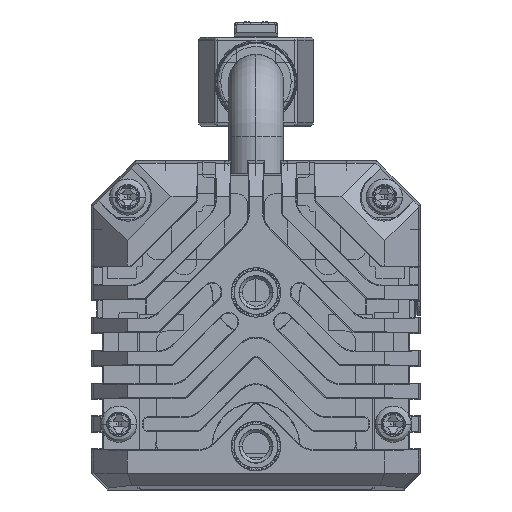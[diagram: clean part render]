
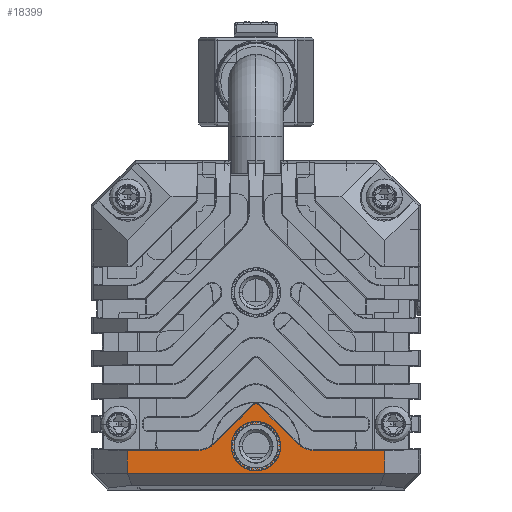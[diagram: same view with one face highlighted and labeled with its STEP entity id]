
A CAD part, left-side view. The second image highlights one B-rep face of the part: STEP entity #18399.
In plain terms, the highlighted planar face has unit normal (-1, 0, 0) as drawn and (1, 0, 0) by its records, which use the part's own axes.
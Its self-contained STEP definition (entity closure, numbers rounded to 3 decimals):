
#11307=CARTESIAN_POINT('',(5.,0.,7.527));
#11308=DIRECTION('',(1.,0.,0.));
#11309=DIRECTION('',(0.,0.707,0.707));
#11310=AXIS2_PLACEMENT_3D('',#11307,#11308,#11309);
#11316=DIRECTION('',(0.,0.707,-0.707));
#11317=VECTOR('',#11316,5.013);
#11318=CARTESIAN_POINT('',(5.,0.242,7.769));
#11319=LINE('',#11318,#11317);
#11323=DIRECTION('',(0.,-1.,0.));
#11324=VECTOR('',#11323,6.438);
#11325=CARTESIAN_POINT('',(5.,11.75,3.593));
#11326=LINE('',#11325,#11324);
#11330=DIRECTION('',(0.,0.,1.));
#11331=VECTOR('',#11330,2.093);
#11332=CARTESIAN_POINT('',(5.,11.75,1.5));
#11333=LINE('',#11332,#11331);
#11337=DIRECTION('',(0.,1.,0.));
#11338=VECTOR('',#11337,23.5);
#11339=CARTESIAN_POINT('',(5.,-11.75,1.5));
#11340=LINE('',#11339,#11338);
#11344=DIRECTION('',(0.,0.,-1.));
#11345=VECTOR('',#11344,2.093);
#11346=CARTESIAN_POINT('',(5.,-11.75,3.593));
#11347=LINE('',#11346,#11345);
#11351=DIRECTION('',(0.,1.,0.));
#11352=VECTOR('',#11351,6.438);
#11353=CARTESIAN_POINT('',(5.,-11.75,3.593));
#11354=LINE('',#11353,#11352);
#11358=DIRECTION('',(0.,0.707,0.707));
#11359=VECTOR('',#11358,5.013);
#11360=CARTESIAN_POINT('',(5.,-3.787,4.225));
#11361=LINE('',#11360,#11359);
#11365=CARTESIAN_POINT('',(5.,0.,4.));
#11366=DIRECTION('',(1.,0.,0.));
#11367=DIRECTION('',(0.,1.,0.));
#11368=AXIS2_PLACEMENT_3D('',#11365,#11366,#11367);
#11373=CARTESIAN_POINT('',(5.,0.,4.));
#11374=DIRECTION('',(1.,0.,0.));
#11375=DIRECTION('',(0.,-1.,0.));
#11376=AXIS2_PLACEMENT_3D('',#11373,#11374,#11375);
#12102=CARTESIAN_POINT('',(5.,-5.312,5.75));
#12103=DIRECTION('',(-1.,0.,0.));
#12104=DIRECTION('',(0.,0.707,-0.707));
#12105=AXIS2_PLACEMENT_3D('',#12102,#12103,#12104);
#15621=CARTESIAN_POINT('',(5.,5.312,5.75));
#15622=DIRECTION('',(-1.,0.,0.));
#15623=DIRECTION('',(0.,0.,-1.));
#15624=AXIS2_PLACEMENT_3D('',#15621,#15622,#15623);
#17294=CARTESIAN_POINT('',(5.,2.,4.));
#17295=CARTESIAN_POINT('',(5.,-2.,4.));
#17296=VERTEX_POINT('',#17294);
#17297=VERTEX_POINT('',#17295);
#17298=CARTESIAN_POINT('',(5.,-11.75,1.5));
#17299=CARTESIAN_POINT('',(5.,11.75,1.5));
#17300=VERTEX_POINT('',#17298);
#17301=VERTEX_POINT('',#17299);
#17400=CARTESIAN_POINT('',(5.,5.312,3.593));
#17401=VERTEX_POINT('',#17400);
#17402=CARTESIAN_POINT('',(5.,3.787,4.225));
#17403=VERTEX_POINT('',#17402);
#17408=CARTESIAN_POINT('',(5.,-3.787,4.225));
#17409=VERTEX_POINT('',#17408);
#17410=CARTESIAN_POINT('',(5.,-5.312,3.593));
#17411=VERTEX_POINT('',#17410);
#17488=CARTESIAN_POINT('',(5.,-11.75,3.593));
#17489=VERTEX_POINT('',#17488);
#17490=CARTESIAN_POINT('',(5.,11.75,3.593));
#17491=VERTEX_POINT('',#17490);
#17508=CARTESIAN_POINT('',(5.,0.242,7.769));
#17509=CARTESIAN_POINT('',(5.,-0.242,7.769));
#17510=VERTEX_POINT('',#17508);
#17511=VERTEX_POINT('',#17509);
#18366=CARTESIAN_POINT('',(5.,0.,0.));
#18367=DIRECTION('',(1.,0.,0.));
#18368=DIRECTION('',(0.,1.,0.));
#18369=AXIS2_PLACEMENT_3D('',#18366,#18367,#18368);
#18370=PLANE('',#18369);
#18372=ORIENTED_EDGE('',*,*,#18371,.F.);
#18374=ORIENTED_EDGE('',*,*,#18373,.T.);
#18376=ORIENTED_EDGE('',*,*,#18375,.F.);
#18378=ORIENTED_EDGE('',*,*,#18377,.F.);
#18380=ORIENTED_EDGE('',*,*,#18379,.F.);
#18382=ORIENTED_EDGE('',*,*,#18381,.F.);
#18384=ORIENTED_EDGE('',*,*,#18383,.F.);
#18386=ORIENTED_EDGE('',*,*,#18385,.T.);
#18388=ORIENTED_EDGE('',*,*,#18387,.F.);
#18390=ORIENTED_EDGE('',*,*,#18389,.T.);
#18391=EDGE_LOOP('',(#18372,#18374,#18376,#18378,#18380,#18382,#18384,#18386,
#18388,#18390));
#18392=FACE_OUTER_BOUND('',#18391,.F.);
#18394=ORIENTED_EDGE('',*,*,#18393,.T.);
#18396=ORIENTED_EDGE('',*,*,#18395,.T.);
#18397=EDGE_LOOP('',(#18394,#18396));
#18398=FACE_BOUND('',#18397,.F.);
#11311=CIRCLE('',#11310,0.343);
#11369=CIRCLE('',#11368,2.);
#11377=CIRCLE('',#11376,2.);
#12106=CIRCLE('',#12105,2.157);
#15625=CIRCLE('',#15624,2.157);
#18371=EDGE_CURVE('',#17510,#17511,#11311,.T.);
#18373=EDGE_CURVE('',#17510,#17403,#11319,.T.);
#18375=EDGE_CURVE('',#17401,#17403,#15625,.T.);
#18377=EDGE_CURVE('',#17491,#17401,#11326,.T.);
#18379=EDGE_CURVE('',#17301,#17491,#11333,.T.);
#18381=EDGE_CURVE('',#17300,#17301,#11340,.T.);
#18383=EDGE_CURVE('',#17489,#17300,#11347,.T.);
#18385=EDGE_CURVE('',#17489,#17411,#11354,.T.);
#18387=EDGE_CURVE('',#17409,#17411,#12106,.T.);
#18389=EDGE_CURVE('',#17409,#17511,#11361,.T.);
#18393=EDGE_CURVE('',#17296,#17297,#11369,.T.);
#18395=EDGE_CURVE('',#17297,#17296,#11377,.T.);
#18399=ADVANCED_FACE('',(#18392,#18398),#18370,.T.);
